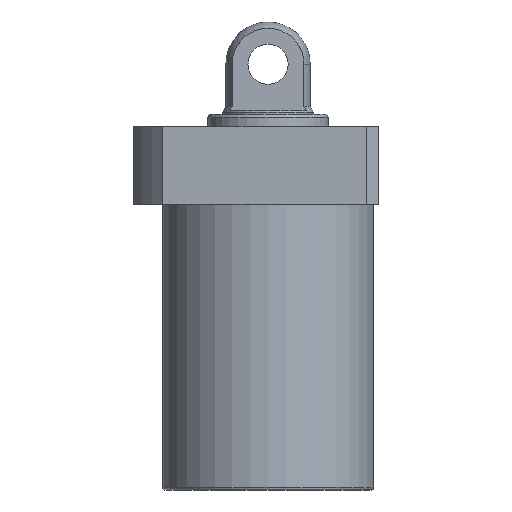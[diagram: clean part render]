
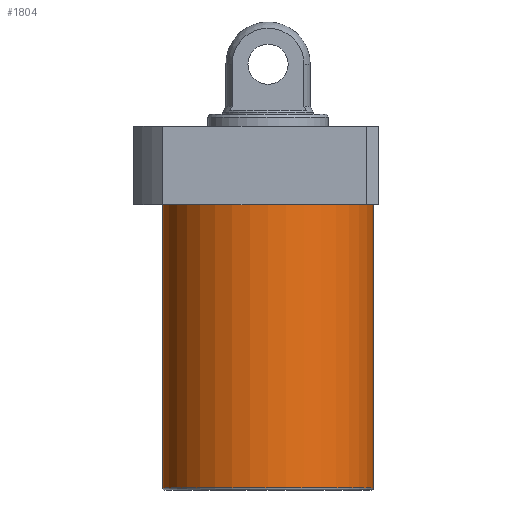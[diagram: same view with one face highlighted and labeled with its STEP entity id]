
A CAD part, front view. The second image highlights one B-rep face of the part: STEP entity #1804.
In plain terms, the highlighted cylindrical face has radius 52.5 mm (diameter 105 mm), a partial arc.
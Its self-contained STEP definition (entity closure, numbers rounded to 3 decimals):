
#41 = CARTESIAN_POINT ( 'NONE',  ( -52.5, 0., -161.5 ) ) ;
#160 = DIRECTION ( 'NONE',  ( 0., 0., 1. ) ) ;
#343 = CYLINDRICAL_SURFACE ( 'NONE', #1608, 52.5 ) ;
#366 = VERTEX_POINT ( 'NONE', #856 ) ;
#407 = CARTESIAN_POINT ( 'NONE',  ( 52.5, 0., -161.5 ) ) ;
#423 = ORIENTED_EDGE ( 'NONE', *, *, #1164, .F. ) ;
#440 = CARTESIAN_POINT ( 'NONE',  ( 0., 0., -160.5 ) ) ;
#453 = DIRECTION ( 'NONE',  ( 1., 0., 0. ) ) ;
#514 = DIRECTION ( 'NONE',  ( 1., 0., 0. ) ) ;
#544 = VECTOR ( 'NONE', #160, 1000. ) ;
#590 = DIRECTION ( 'NONE',  ( 0., 0., 1. ) ) ;
#668 = AXIS2_PLACEMENT_3D ( 'NONE', #1394, #1535, #514 ) ;
#757 = CARTESIAN_POINT ( 'NONE',  ( -52.5, 0., -160.5 ) ) ;
#823 = EDGE_LOOP ( 'NONE', ( #423, #1482, #1623, #1028 ) ) ;
#856 = CARTESIAN_POINT ( 'NONE',  ( -52.5, 0., -19.5 ) ) ;
#1028 = ORIENTED_EDGE ( 'NONE', *, *, #1620, .T. ) ;
#1055 = LINE ( 'NONE', #407, #1444 ) ;
#1077 = VERTEX_POINT ( 'NONE', #1814 ) ;
#1109 = EDGE_CURVE ( 'NONE', #1077, #1690, #1055, .T. ) ;
#1162 = DIRECTION ( 'NONE',  ( -1., 0., 0. ) ) ;
#1164 = EDGE_CURVE ( 'NONE', #1421, #366, #1309, .T. ) ;
#1167 = CARTESIAN_POINT ( 'NONE',  ( 0., 0., -161.5 ) ) ;
#1168 = EDGE_CURVE ( 'NONE', #1421, #1077, #1234, .T. ) ;
#1234 = CIRCLE ( 'NONE', #1782, 52.5 ) ;
#1309 = LINE ( 'NONE', #41, #544 ) ;
#1394 = CARTESIAN_POINT ( 'NONE',  ( 0., 0., -19.5 ) ) ;
#1402 = DIRECTION ( 'NONE',  ( 0., 0., 1. ) ) ;
#1421 = VERTEX_POINT ( 'NONE', #757 ) ;
#1431 = CARTESIAN_POINT ( 'NONE',  ( 52.5, 0., -19.5 ) ) ;
#1438 = FACE_OUTER_BOUND ( 'NONE', #823, .T. ) ;
#1444 = VECTOR ( 'NONE', #1402, 1000. ) ;
#1482 = ORIENTED_EDGE ( 'NONE', *, *, #1168, .T. ) ;
#1535 = DIRECTION ( 'NONE',  ( 0., 0., -1. ) ) ;
#1580 = DIRECTION ( 'NONE',  ( 0., 0., 1. ) ) ;
#1608 = AXIS2_PLACEMENT_3D ( 'NONE', #1167, #590, #453 ) ;
#1620 = EDGE_CURVE ( 'NONE', #1690, #366, #1723, .T. ) ;
#1623 = ORIENTED_EDGE ( 'NONE', *, *, #1109, .T. ) ;
#1690 = VERTEX_POINT ( 'NONE', #1431 ) ;
#1723 = CIRCLE ( 'NONE', #668, 52.5 ) ;
#1782 = AXIS2_PLACEMENT_3D ( 'NONE', #440, #1580, #1162 ) ;
#1804 = ADVANCED_FACE ( 'NONE', ( #1438 ), #343, .T. ) ;
#1814 = CARTESIAN_POINT ( 'NONE',  ( 52.5, 0., -160.5 ) ) ;
